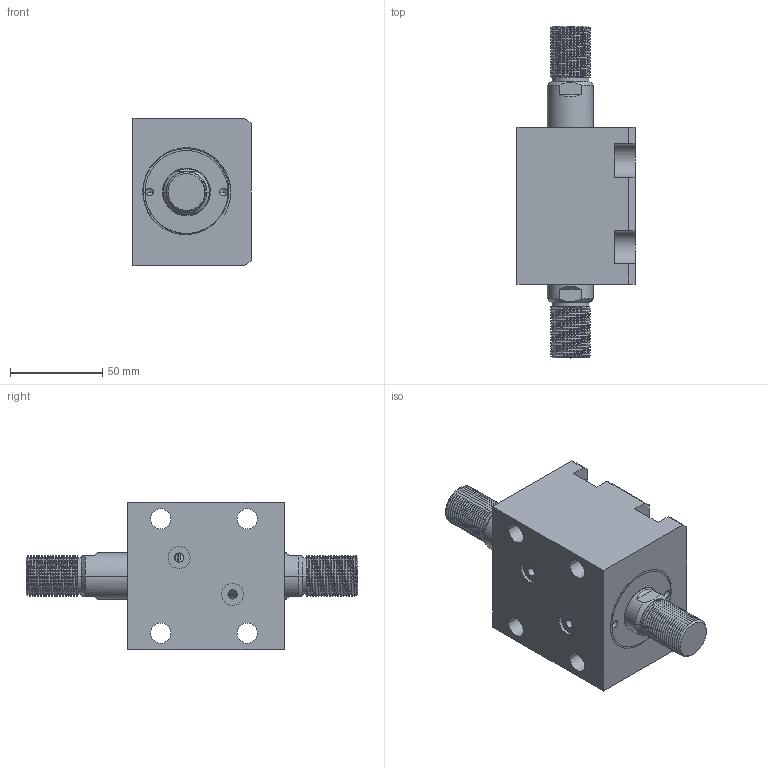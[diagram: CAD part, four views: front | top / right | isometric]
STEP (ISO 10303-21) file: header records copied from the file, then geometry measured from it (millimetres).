
FILE_DESCRIPTION (( 'STEP AP214' ), '1' );
FILE_NAME ('chtb-lwm40x15w_asm.STEP', '2018-05-31T00:30:51', ( 'Windows' ), ( 'Microsoft' ), 'SwSTEP 2.0', 'SolidWorks 2015', '' );
FILE_SCHEMA (( 'AUTOMOTIVE_DESIGN' ));
Length unit declared in the file: millimetre
Products named in the file (4): CHTB-SW40X15NHSG; CHTB-SD40QG; CHTB-LWM40X15NBT; chtb-lwm40x15w_asm
Assembly tree (3 placements, depth 2):
  chtb-lwm40x15w_asm
    CHTB-LWM40X15NBT
    CHTB-SD40QG
    CHTB-SW40X15NHSG
Bounding box: 64 x 180 x 80 mm (x, y, z)
Volume: 425414.6 mm3; surface area: 81690.7 mm2
Topology: 3 solids, 3 shells, 241 faces, 672 edges, 447 vertices
Faces by surface type: cylinder 149, plane 49, bspline 18, cone 13, torus 12
Entity records: 17008 total; most frequent: CARTESIAN_POINT 11205, ORIENTED_EDGE 1332, DIRECTION 1035, EDGE_CURVE 666, VERTEX_POINT 447, AXIS2_PLACEMENT_3D 401, EDGE_LOOP 273, ADVANCED_FACE 241
